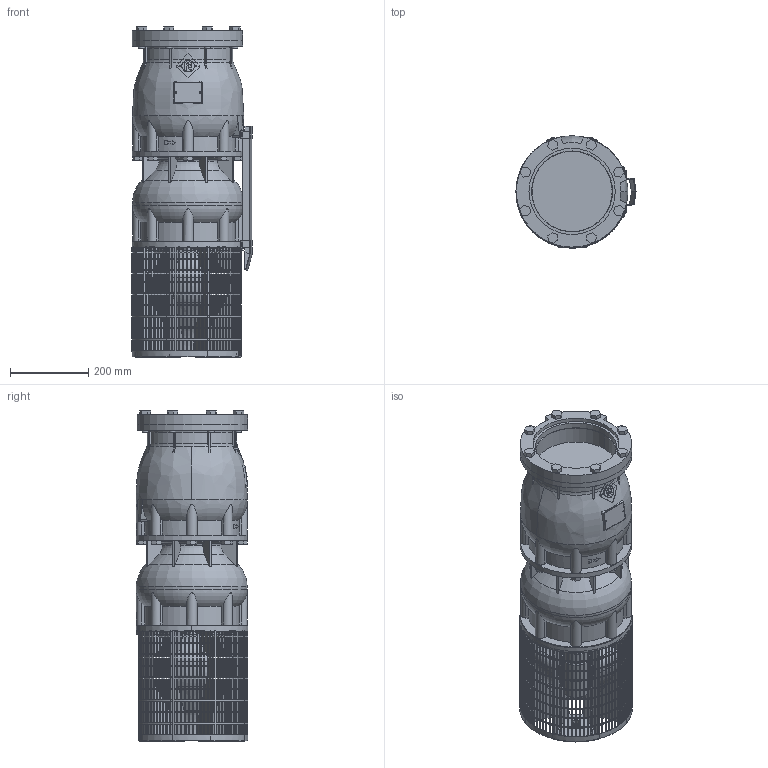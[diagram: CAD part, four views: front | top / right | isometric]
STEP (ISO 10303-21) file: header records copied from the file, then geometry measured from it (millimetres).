
FILE_DESCRIPTION(/* description */ ('-'),/* implementation_level */ '2;1');
FILE_NAME(/* name */ 'VSI454-1_WF_M8-50_DLE',/* time_stamp */ '2026-01-21T12:46:21+01:00',/* author */ ('Simonelli M.'),/* organization */ ('Franklin Electric Srl'),/* preprocessor_version */ 'ST-DEVELOPER v18.102',/* originating_system */ 'Solid Edge',/* authorisation */ 'Unknown');
FILE_SCHEMA (('AUTOMOTIVE_DESIGN {1 0 10303 214 3 1 1}'));
Products named in the file (12): VSI454-1_WF_M8-50_DLE; VSI344-454_testata; VSI344-454_supporto; VSI344-454_filtro_A; VSI344-454_filtro_B; VSI344-454_terminale_top_copricavo_basso; VSI344-454_terminale_bottom_copricavo_basso; LOW 454-1; VSI454_diffusore; M5X8_UNI7687; VSI184-254_giunto_10×8; VSI344-454_flangia_testata
Assembly tree (20 placements, depth 2):
  VSI454-1_WF_M8-50_DLE
    VSI344-454_testata
    VSI344-454_supporto
    VSI344-454_filtro_A
    VSI344-454_filtro_B
    VSI344-454_terminale_top_copricavo_basso
    VSI344-454_terminale_bottom_copricavo_basso
    LOW 454-1
    VSI454_diffusore
    M5X8_UNI7687  x10
    VSI184-254_giunto_10×8
    VSI344-454_flangia_testata
Bounding box: 306.94 x 286 x 845 mm (x, y, z)
Volume: 29266101.1 mm3; surface area: 1941601.3 mm2
Topology: 85 solids, 85 shells, 3910 faces, 11023 edges, 7321 vertices
Faces by surface type: plane 3206, cylinder 479, torus 131, cone 69, bspline 15, sphere 10
Full cylindrical faces by diameter (mm): 5 x10, 16 x8, 35 x1, 65 x1, 69 x1, 150 x1, 207 x1, 220.5 x1, 284.507 x1, 285 x1
Entity records: 127574 total; most frequent: CARTESIAN_POINT 28626, ORIENTED_EDGE 20792, DIRECTION 19888, EDGE_CURVE 10396, VERTEX_POINT 6933, AXIS2_PLACEMENT_3D 6715, LINE 6458, VECTOR 6458
